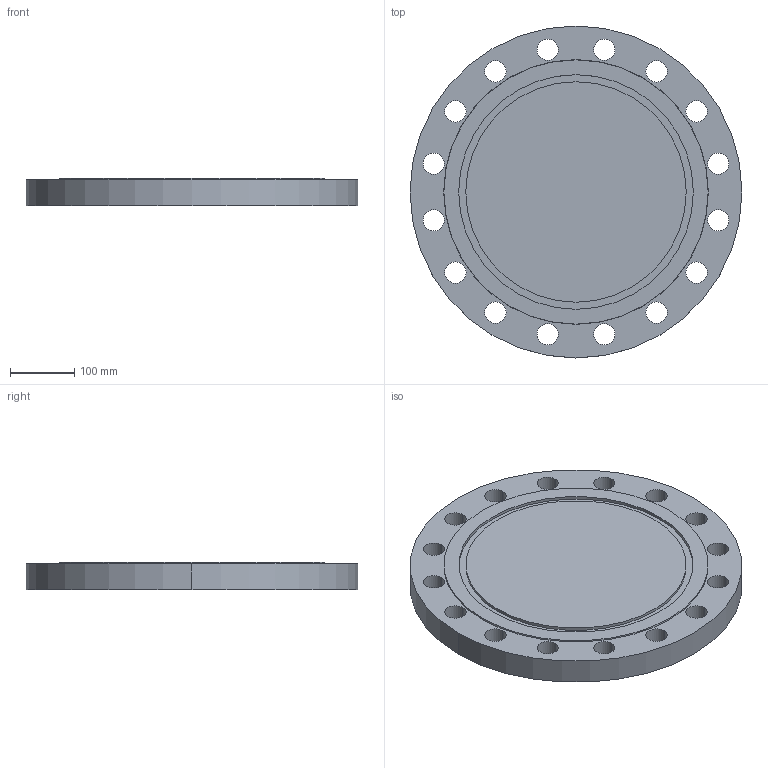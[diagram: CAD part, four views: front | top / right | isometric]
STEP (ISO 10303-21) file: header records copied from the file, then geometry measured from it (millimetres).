
FILE_DESCRIPTION (( 'STEP AP214' ), '1' );
FILE_NAME ('PN40 DN300 Type 05 - Type D Face.STEP', '2019-01-05T20:27:16', ( '' ), ( '' ), 'SwSTEP 2.0', 'SolidWorks 2019', '' );
FILE_SCHEMA (( 'AUTOMOTIVE_DESIGN' ));
Length unit declared in the file: millimetre
Products named in the file (1): PN40 DN300 Type 05 - Type D Face
Bounding box: 515 x 515 x 42 mm (x, y, z)
Volume: 7994508.8 mm3; surface area: 532456.5 mm2
Topology: 1 solids, 1 shells, 45 faces, 120 edges, 80 vertices
Faces by surface type: cylinder 38, plane 5, cone 2
Entity records: 1552 total; most frequent: DIRECTION 292, CARTESIAN_POINT 246, ORIENTED_EDGE 240, AXIS2_PLACEMENT_3D 126, EDGE_CURVE 120, CIRCLE 80, EDGE_LOOP 80, VERTEX_POINT 80
